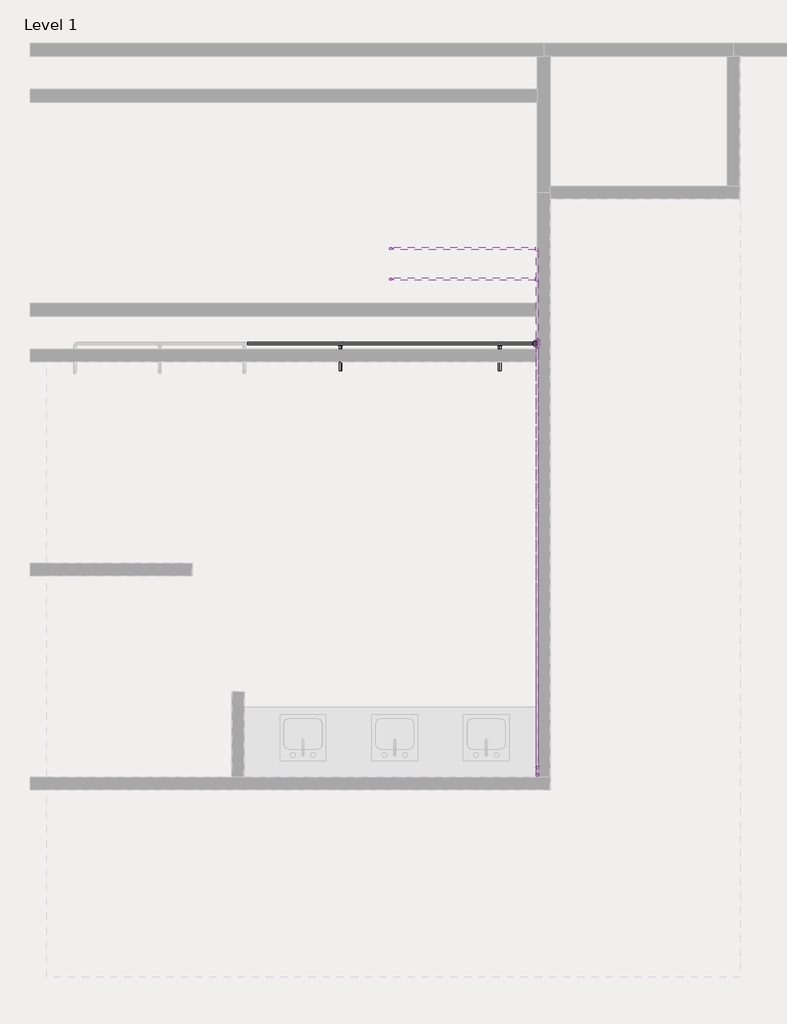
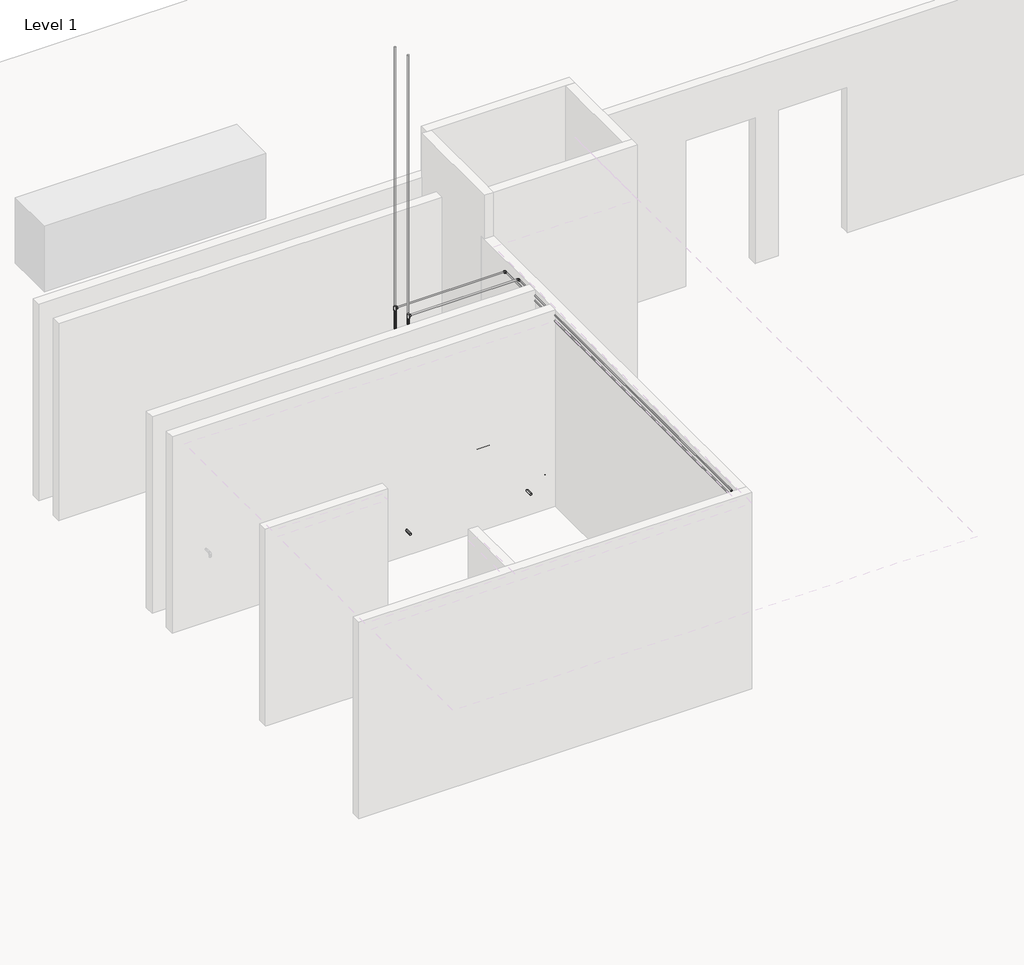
# One storey, part 4 of 4: 30 pipe fittings, 28 pipe segments.
"""IFC4 building model written with IfcOpenShell, lengths in millimetres."""

from ifc_helpers import new_model, si_unit, point, frame, frame_2d, origin, place, context, project, spatial, circle_curve, trimmed, segment, composite_curve, outline, extrude, transform, mapped, element, save
from components import pipe_elbow_standard_aad62f2d, pipe_elbow_standard_a25a5501, pipe_elbow_standard_feaaf02c, pipe_tee_standard_ee363fbf, pipe_tee_standard_7127fd44, pipe_transition_eccentric_standard_d2ed9d0f, pipe_transition_eccentric_standard_5a72ba1c, pipe_transition_eccentric_standard_c40806be, pipe_transition_eccentric_standard_151601c4

model = new_model("IFC4")

# Units and contexts
model_context = context("Model", 3, world=origin())
ifc_project = project(units=[si_unit("LENGTHUNIT", "METRE", prefix="MILLI")], contexts=[model_context])

# Site, building, storey
site = spatial("IfcSite", under=ifc_project)
building = spatial("IfcBuilding", under=site)
storey = spatial("IfcBuildingStorey", under=building, Name="Level 1", Elevation=0.0)

# Pipe fittings
placement = place(None, origin())
pipe_elbow_standard_shape = pipe_elbow_standard_aad62f2d(model_context)
element("IfcPipeFitting", 1, ObjectType="Pipe Elbow : Standard", at=placement, inside=storey, context=model_context, shape_type="MappedRepresentation", body=[
    mapped(pipe_elbow_standard_shape, transform((9090.0157496, 3793.5640359, 863.6), x_axis=(0.0, 0.0, -1.0), y_axis=(0.0, -1.0, 0.0), z_axis=(-1.0, 0.0, 0.0))),
])
element("IfcPipeFitting", 2, ObjectType="Pipe Elbow : Standard", at=placement, inside=storey, context=model_context, shape_type="MappedRepresentation", body=[
    mapped(pipe_elbow_standard_shape, transform((10004.4157496, 3793.5640359, 863.6), x_axis=(0.0, 0.0, -1.0), y_axis=(0.0, -1.0, 0.0), z_axis=(-1.0, 0.0, 0.0))),
])
element("IfcPipeFitting", 3, ObjectType="Pipe Elbow : Standard", at=placement, inside=storey, context=model_context, shape_type="MappedRepresentation", body=[
    mapped(pipe_elbow_standard_shape, transform((9801.2157496, 3793.5640359, 762.0), x_axis=(0.0, 0.0, -1.0), y_axis=(0.0, -1.0, 0.0), z_axis=(-1.0, 0.0, 0.0))),
])
element("IfcPipeFitting", 4, ObjectType="Pipe Elbow : Standard", at=placement, inside=storey, context=model_context, shape_type="MappedRepresentation", body=[
    mapped(pipe_elbow_standard_shape, transform((8886.8157496, 3793.5640359, 762.0), x_axis=(0.0, 0.0, -1.0), y_axis=(0.0, -1.0, 0.0), z_axis=(-1.0, 0.0, 0.0))),
])
pipe_elbow_standard_2_shape = pipe_elbow_standard_a25a5501(model_context)
element("IfcPipeFitting", 5, ObjectType="Pipe Elbow : Standard", at=placement, inside=storey, context=model_context, shape_type="MappedRepresentation", body=[
    mapped(pipe_elbow_standard_2_shape, transform((10036.227769, 7897.6573915, 355.6), x_axis=(-1.0, 0.0, 0.0), y_axis=(0.0, -1.0, 0.0), z_axis=(0.0, 0.0, 1.0))),
])
element("IfcPipeFitting", 6, ObjectType="Pipe Elbow : Standard", at=placement, inside=storey, context=model_context, shape_type="MappedRepresentation", body=[
    mapped(pipe_elbow_standard_2_shape, transform((10410.8157496, 7897.6573915, 355.6), x_axis=(0.0, 0.0, -1.0), y_axis=(-1.0, 0.0, 0.0), z_axis=(0.0, 1.0, 0.0))),
])
element("IfcPipeFitting", 7, ObjectType="Pipe Elbow : Standard", at=placement, inside=storey, context=model_context, shape_type="MappedRepresentation", body=[
    mapped(pipe_elbow_standard_2_shape, transform((8448.727769, 7897.6573915, 355.6), x_axis=(-1.0, 0.0, 0.0), y_axis=(0.0, -1.0, 0.0), z_axis=(0.0, 0.0, 1.0))),
])
pipe_elbow_standard_3_shape = pipe_elbow_standard_feaaf02c(model_context)
element("IfcPipeFitting", 8, ObjectType="Pipe Elbow : Standard", at=placement, inside=storey, context=model_context, shape_type="MappedRepresentation", body=[
    mapped(pipe_elbow_standard_3_shape, transform((10410.8157496, 3596.9672657, 863.6), x_axis=(1.0, 0.0, 0.0), y_axis=(0.0, 0.0, 1.0), z_axis=(0.0, -1.0, 0.0))),
])
element("IfcPipeFitting", 9, ObjectType="Pipe Elbow : Standard", at=placement, inside=storey, context=model_context, shape_type="MappedRepresentation", body=[
    mapped(pipe_elbow_standard_3_shape, transform((10410.8157496, 8844.4099268, 2590.8), x_axis=(0.0, 1.0, 0.0), y_axis=(-1.0, 0.0, 0.0), z_axis=(0.0, 0.0, 1.0))),
])
element("IfcPipeFitting", 10, ObjectType="Pipe Elbow : Standard", at=placement, inside=storey, context=model_context, shape_type="MappedRepresentation", body=[
    mapped(pipe_elbow_standard_3_shape, transform((10410.8157496, 3660.4672657, 762.0), x_axis=(1.0, 0.0, 0.0), y_axis=(0.0, 0.0, 1.0), z_axis=(0.0, -1.0, 0.0))),
])
element("IfcPipeFitting", 11, ObjectType="Pipe Elbow : Standard", at=placement, inside=storey, context=model_context, shape_type="MappedRepresentation", body=[
    mapped(pipe_elbow_standard_3_shape, transform((10410.8157496, 3590.3640359, 2590.8), x_axis=(0.0, -1.0, 0.0), y_axis=(0.0, 0.0, 1.0), z_axis=(-1.0, 0.0, 0.0))),
])
element("IfcPipeFitting", 12, ObjectType="Pipe Elbow : Standard", at=placement, inside=storey, context=model_context, shape_type="MappedRepresentation", body=[
    mapped(pipe_elbow_standard_3_shape, transform((10410.8157496, 8539.6099268, 2667.0), x_axis=(0.0, 1.0, 0.0), y_axis=(-1.0, 0.0, 0.0), z_axis=(0.0, 0.0, 1.0))),
])
element("IfcPipeFitting", 13, ObjectType="Pipe Elbow : Standard", at=placement, inside=storey, context=model_context, shape_type="MappedRepresentation", body=[
    mapped(pipe_elbow_standard_3_shape, transform((10410.8157496, 3660.4672657, 2667.0), x_axis=(0.0, 0.0, 1.0), y_axis=(0.0, 1.0, 0.0), z_axis=(-1.0, 0.0, 0.0))),
])
pipe_tee_standard_shape = pipe_tee_standard_ee363fbf(model_context)
element("IfcPipeFitting", 14, ObjectType="Pipe Tee : Standard", at=placement, inside=storey, context=model_context, shape_type="MappedRepresentation", body=[
    mapped(pipe_tee_standard_shape, transform((9090.0157496, 3596.9672657, 863.6), x_axis=(-1.0, 0.0, 0.0), y_axis=(0.0, -1.0, 0.0), z_axis=(0.0, 0.0, 1.0))),
])
element("IfcPipeFitting", 15, ObjectType="Pipe Tee : Standard", at=placement, inside=storey, context=model_context, shape_type="MappedRepresentation", body=[
    mapped(pipe_tee_standard_shape, transform((10004.4157496, 3596.9672657, 863.6), x_axis=(-1.0, 0.0, 0.0), y_axis=(0.0, -1.0, 0.0), z_axis=(0.0, 0.0, 1.0))),
])
element("IfcPipeFitting", 16, ObjectType="Pipe Tee : Standard", at=placement, inside=storey, context=model_context, shape_type="MappedRepresentation", body=[
    mapped(pipe_tee_standard_shape, transform((8950.3157496, 8844.4099268, 2590.8), x_axis=(0.0, 0.0, 1.0), y_axis=(-1.0, 0.0, 0.0), z_axis=(0.0, -1.0, 0.0))),
])
element("IfcPipeFitting", 17, ObjectType="Pipe Tee : Standard", at=placement, inside=storey, context=model_context, shape_type="MappedRepresentation", body=[
    mapped(pipe_tee_standard_shape, transform((8950.3157496, 8539.6099268, 2667.0), x_axis=(0.0, 0.0, -1.0), y_axis=(-1.0, 0.0, 0.0), z_axis=(0.0, 1.0, 0.0))),
])
element("IfcPipeFitting", 18, ObjectType="Pipe Tee : Standard", at=placement, inside=storey, context=model_context, shape_type="MappedRepresentation", body=[
    mapped(pipe_tee_standard_shape, transform((9801.2157496, 3660.4672657, 762.0), x_axis=(-1.0, 0.0, 0.0), y_axis=(0.0, -1.0, 0.0), z_axis=(0.0, 0.0, 1.0))),
])
element("IfcPipeFitting", 19, ObjectType="Pipe Tee : Standard", at=placement, inside=storey, context=model_context, shape_type="MappedRepresentation", body=[
    mapped(pipe_tee_standard_shape, transform((8886.8157496, 3660.4672657, 762.0), x_axis=(1.0, 0.0, 0.0), y_axis=(0.0, -1.0, 0.0), z_axis=(0.0, 0.0, -1.0))),
])
pipe_tee_standard_2_shape = pipe_tee_standard_7127fd44(model_context)
element("IfcPipeFitting", 20, ObjectType="Pipe Tee : Standard", at=placement, inside=storey, context=model_context, shape_type="MappedRepresentation", body=[
    mapped(pipe_tee_standard_2_shape, transform((10410.8157496, 7897.6573915, 2590.8), x_axis=(0.0, 1.0, 0.0), y_axis=(0.0, 0.0, 1.0), z_axis=(1.0, 0.0, 0.0))),
])
element("IfcPipeFitting", 21, ObjectType="Pipe Tee : Standard", at=placement, inside=storey, context=model_context, shape_type="MappedRepresentation", body=[
    mapped(pipe_tee_standard_2_shape, transform((10410.8157496, 7897.6573915, 1021.5562398), x_axis=(0.0, 0.0, 1.0), y_axis=(1.0, 0.0, 0.0), z_axis=(0.0, 1.0, 0.0))),
])
pipe_transition_eccentric_standard_shape = pipe_transition_eccentric_standard_d2ed9d0f(model_context)
element("IfcPipeFitting", 22, ObjectType="Pipe Transition Eccentric : Standard", at=placement, inside=storey, context=model_context, shape_type="MappedRepresentation", body=[
    mapped(pipe_transition_eccentric_standard_shape, transform((10410.8157496, 7861.1448915, 2590.8), x_axis=(0.0, -1.0, 0.0), y_axis=(1.0, 0.0, 0.0), z_axis=(0.0, 0.0, 1.0))),
])
pipe_transition_eccentric_standard_2_shape = pipe_transition_eccentric_standard_5a72ba1c(model_context)
element("IfcPipeFitting", 23, ObjectType="Pipe Transition Eccentric : Standard", at=placement, inside=storey, context=model_context, shape_type="MappedRepresentation", body=[
    mapped(pipe_transition_eccentric_standard_2_shape, transform((10410.8157496, 7897.6573915, 389.73125), x_axis=(0.0, 0.0, -1.0), y_axis=(0.0, -1.0, 0.0), z_axis=(-1.0, 0.0, 0.0))),
])
pipe_transition_eccentric_standard_3_shape = pipe_transition_eccentric_standard_c40806be(model_context)
element("IfcPipeFitting", 24, ObjectType="Pipe Transition Eccentric : Standard", at=placement, inside=storey, context=model_context, shape_type="MappedRepresentation", body=[
    mapped(pipe_transition_eccentric_standard_3_shape, transform((9090.0157496, 3623.9547657, 863.6), x_axis=(0.0, 1.0, 0.0), y_axis=(-1.0, 0.0, 0.0), z_axis=(0.0, 0.0, 1.0))),
])
element("IfcPipeFitting", 25, ObjectType="Pipe Transition Eccentric : Standard", at=placement, inside=storey, context=model_context, shape_type="MappedRepresentation", body=[
    mapped(pipe_transition_eccentric_standard_3_shape, transform((10004.4157496, 3623.9547657, 863.6), x_axis=(0.0, 1.0, 0.0), y_axis=(-1.0, 0.0, 0.0), z_axis=(0.0, 0.0, 1.0))),
])
element("IfcPipeFitting", 26, ObjectType="Pipe Transition Eccentric : Standard", at=placement, inside=storey, context=model_context, shape_type="MappedRepresentation", body=[
    mapped(pipe_transition_eccentric_standard_3_shape, transform((9801.2157496, 3687.4547657, 762.0), x_axis=(0.0, 1.0, 0.0), y_axis=(-1.0, 0.0, 0.0), z_axis=(0.0, 0.0, 1.0))),
])
element("IfcPipeFitting", 27, ObjectType="Pipe Transition Eccentric : Standard", at=placement, inside=storey, context=model_context, shape_type="MappedRepresentation", body=[
    mapped(pipe_transition_eccentric_standard_3_shape, transform((8886.8157496, 3687.4547657, 762.0), x_axis=(0.0, 1.0, 0.0), y_axis=(-1.0, 0.0, 0.0), z_axis=(0.0, 0.0, 1.0))),
])
element("IfcPipeFitting", 28, ObjectType="Pipe Transition Eccentric : Standard", at=placement, inside=storey, context=model_context, shape_type="MappedRepresentation", body=[
    mapped(pipe_transition_eccentric_standard_3_shape, transform((10410.8157496, 3590.3640359, 2611.4375), x_axis=(0.0, 0.0, 1.0), y_axis=(0.0, -1.0, 0.0), z_axis=(1.0, 0.0, 0.0))),
])
pipe_transition_eccentric_standard_4_shape = pipe_transition_eccentric_standard_151601c4(model_context)
element("IfcPipeFitting", 29, ObjectType="Pipe Transition Eccentric : Standard", at=placement, inside=storey, context=model_context, shape_type="MappedRepresentation", body=[
    mapped(pipe_transition_eccentric_standard_4_shape, transform((10410.8157496, 7934.1698915, 2590.8), x_axis=(0.0, 1.0, 0.0), y_axis=(-1.0, 0.0, 0.0), z_axis=(0.0, 0.0, 1.0))),
])
element("IfcPipeFitting", 30, ObjectType="Pipe Transition Eccentric : Standard", at=placement, inside=storey, context=model_context, shape_type="MappedRepresentation", body=[
    mapped(pipe_transition_eccentric_standard_4_shape, transform((10374.3032496, 7897.6573915, 1021.5562398), x_axis=(-1.0, 0.0, 0.0), y_axis=(0.0, -1.0, 0.0), z_axis=(0.0, 0.0, 1.0))),
])

# Pipe segments
element("IfcPipeSegment", 31, ObjectType="Hot Water", at=placement, inside=storey, context=model_context, shape_type="SweptSolid", body=[
    extrude(outline(composite_curve([segment(trimmed(circle_curve(frame_2d((9090.0157496, 3793.5640359)), 7.9375), [point((9097.9532496, 3793.5640359))], [point((9090.0157496, 3785.6265359))], False, "CARTESIAN"), True, "CONTINUOUS"), segment(trimmed(circle_curve(frame_2d((9090.0157496, 3793.5640359)), 7.9375), [point((9090.0157496, 3785.6265359))], [point((9082.0782496, 3793.5640359))], False, "CARTESIAN"), True, "CONTINUOUS"), segment(trimmed(circle_curve(frame_2d((9090.0157496, 3793.5640359)), 7.9375), [point((9082.0782496, 3793.5640359))], [point((9090.0157496, 3801.5015359))], False, "CARTESIAN"), True, "CONTINUOUS"), segment(trimmed(circle_curve(frame_2d((9090.0157496, 3793.5640359)), 7.9375), [point((9090.0157496, 3801.5015359))], [point((9097.9532496, 3793.5640359))], False, "CARTESIAN"), True, "CONTINUOUS")], self_intersect=False)), frame((0.0, 0.0, 881.0625), z_axis=(0.0, 0.0, 1.0), x_axis=(1.0, 0.0, 0.0)), (0.0, 0.0, 1.0), 33.3375),
])
element("IfcPipeSegment", 32, ObjectType="Hot Water", at=placement, inside=storey, context=model_context, shape_type="SweptSolid", body=[
    extrude(outline(composite_curve([segment(trimmed(circle_curve(frame_2d((863.6, 9090.0157496)), 7.9375), [point((863.6, 9082.0782496))], [point((855.6625, 9090.0157496))], False, "CARTESIAN"), True, "CONTINUOUS"), segment(trimmed(circle_curve(frame_2d((863.6, 9090.0157496)), 7.9375), [point((855.6625, 9090.0157496))], [point((863.6, 9097.9532496))], False, "CARTESIAN"), True, "CONTINUOUS"), segment(trimmed(circle_curve(frame_2d((863.6, 9090.0157496)), 7.9375), [point((863.6, 9097.9532496))], [point((871.5375, 9090.0157496))], False, "CARTESIAN"), True, "CONTINUOUS"), segment(trimmed(circle_curve(frame_2d((863.6, 9090.0157496)), 7.9375), [point((871.5375, 9090.0157496))], [point((863.6, 9082.0782496))], False, "CARTESIAN"), True, "CONTINUOUS")], self_intersect=False)), frame((0.0, 3629.5110157, 0.0), z_axis=(0.0, 1.0, 0.0), x_axis=(0.0, 0.0, 1.0)), (0.0, 0.0, 1.0), 146.5905202),
])
element("IfcPipeSegment", 33, ObjectType="Hot Water", at=placement, inside=storey, context=model_context, shape_type="SweptSolid", body=[
    extrude(outline(composite_curve([segment(trimmed(circle_curve(frame_2d((10004.4157496, 3793.5640359)), 7.9375), [point((10012.3532496, 3793.5640359))], [point((10004.4157496, 3785.6265359))], False, "CARTESIAN"), True, "CONTINUOUS"), segment(trimmed(circle_curve(frame_2d((10004.4157496, 3793.5640359)), 7.9375), [point((10004.4157496, 3785.6265359))], [point((9996.4782496, 3793.5640359))], False, "CARTESIAN"), True, "CONTINUOUS"), segment(trimmed(circle_curve(frame_2d((10004.4157496, 3793.5640359)), 7.9375), [point((9996.4782496, 3793.5640359))], [point((10004.4157496, 3801.5015359))], False, "CARTESIAN"), True, "CONTINUOUS"), segment(trimmed(circle_curve(frame_2d((10004.4157496, 3793.5640359)), 7.9375), [point((10004.4157496, 3801.5015359))], [point((10012.3532496, 3793.5640359))], False, "CARTESIAN"), True, "CONTINUOUS")], self_intersect=False)), frame((0.0, 0.0, 881.0625), z_axis=(0.0, 0.0, 1.0), x_axis=(1.0, 0.0, 0.0)), (0.0, 0.0, 1.0), 33.3375),
])
element("IfcPipeSegment", 34, ObjectType="Hot Water", at=placement, inside=storey, context=model_context, shape_type="SweptSolid", body=[
    extrude(outline(composite_curve([segment(trimmed(circle_curve(frame_2d((863.6, 10004.4157496)), 7.9375), [point((863.6, 9996.4782496))], [point((855.6625, 10004.4157496))], False, "CARTESIAN"), True, "CONTINUOUS"), segment(trimmed(circle_curve(frame_2d((863.6, 10004.4157496)), 7.9375), [point((855.6625, 10004.4157496))], [point((863.6, 10012.3532496))], False, "CARTESIAN"), True, "CONTINUOUS"), segment(trimmed(circle_curve(frame_2d((863.6, 10004.4157496)), 7.9375), [point((863.6, 10012.3532496))], [point((871.5375, 10004.4157496))], False, "CARTESIAN"), True, "CONTINUOUS"), segment(trimmed(circle_curve(frame_2d((863.6, 10004.4157496)), 7.9375), [point((871.5375, 10004.4157496))], [point((863.6, 9996.4782496))], False, "CARTESIAN"), True, "CONTINUOUS")], self_intersect=False)), frame((0.0, 3629.5110157, 0.0), z_axis=(0.0, 1.0, 0.0), x_axis=(0.0, 0.0, 1.0)), (0.0, 0.0, 1.0), 146.5905202),
])
element("IfcPipeSegment", 35, ObjectType="Hot Water", at=placement, inside=storey, context=model_context, shape_type="SweptSolid", body=[
    extrude(outline(composite_curve([segment(trimmed(circle_curve(frame_2d((3596.9672657, 863.6)), 11.1125), [point((3585.8547657, 863.6))], [point((3596.9672657, 874.7125))], False, "CARTESIAN"), True, "CONTINUOUS"), segment(trimmed(circle_curve(frame_2d((3596.9672657, 863.6)), 11.1125), [point((3596.9672657, 874.7125))], [point((3608.0797657, 863.6))], False, "CARTESIAN"), True, "CONTINUOUS"), segment(trimmed(circle_curve(frame_2d((3596.9672657, 863.6)), 11.1125), [point((3608.0797657, 863.6))], [point((3596.9672657, 852.4875))], False, "CARTESIAN"), True, "CONTINUOUS"), segment(trimmed(circle_curve(frame_2d((3596.9672657, 863.6)), 11.1125), [point((3596.9672657, 852.4875))], [point((3585.8547657, 863.6))], False, "CARTESIAN"), True, "CONTINUOUS")], self_intersect=False)), frame((10031.4032496, 0.0, 0.0), z_axis=(1.0, 0.0, 0.0), x_axis=(0.0, 1.0, 0.0)), (0.0, 0.0, 1.0), 358.775),
])
element("IfcPipeSegment", 36, ObjectType="Hot Water", at=placement, inside=storey, context=model_context, shape_type="SweptSolid", body=[
    extrude(outline(composite_curve([segment(trimmed(circle_curve(frame_2d((3596.9672657, 863.6)), 11.1125), [point((3585.8547657, 863.6))], [point((3596.9672657, 874.7125))], False, "CARTESIAN"), True, "CONTINUOUS"), segment(trimmed(circle_curve(frame_2d((3596.9672657, 863.6)), 11.1125), [point((3596.9672657, 874.7125))], [point((3608.0797657, 863.6))], False, "CARTESIAN"), True, "CONTINUOUS"), segment(trimmed(circle_curve(frame_2d((3596.9672657, 863.6)), 11.1125), [point((3608.0797657, 863.6))], [point((3596.9672657, 852.4875))], False, "CARTESIAN"), True, "CONTINUOUS"), segment(trimmed(circle_curve(frame_2d((3596.9672657, 863.6)), 11.1125), [point((3596.9672657, 852.4875))], [point((3585.8547657, 863.6))], False, "CARTESIAN"), True, "CONTINUOUS")], self_intersect=False)), frame((9117.0032496, 0.0, 0.0), z_axis=(1.0, 0.0, 0.0), x_axis=(0.0, 1.0, 0.0)), (0.0, 0.0, 1.0), 860.425),
])
element("IfcPipeSegment", 37, ObjectType="Hot Water", at=placement, inside=storey, context=model_context, shape_type="SweptSolid", body=[
    extrude(outline(composite_curve([segment(trimmed(circle_curve(frame_2d((8950.3157496, 8539.6099268)), 11.1125), [point((8961.4282496, 8539.6099268))], [point((8950.3157496, 8528.4974268))], False, "CARTESIAN"), True, "CONTINUOUS"), segment(trimmed(circle_curve(frame_2d((8950.3157496, 8539.6099268)), 11.1125), [point((8950.3157496, 8528.4974268))], [point((8939.2032496, 8539.6099268))], False, "CARTESIAN"), True, "CONTINUOUS"), segment(trimmed(circle_curve(frame_2d((8950.3157496, 8539.6099268)), 11.1125), [point((8939.2032496, 8539.6099268))], [point((8950.3157496, 8550.7224268))], False, "CARTESIAN"), True, "CONTINUOUS"), segment(trimmed(circle_curve(frame_2d((8950.3157496, 8539.6099268)), 11.1125), [point((8950.3157496, 8550.7224268))], [point((8961.4282496, 8539.6099268))], False, "CARTESIAN"), True, "CONTINUOUS")], self_intersect=False)), frame((0.0, 0.0, 1447.8), z_axis=(0.0, 0.0, 1.0), x_axis=(1.0, 0.0, 0.0)), (0.0, 0.0, 1.0), 1192.2125),
])
element("IfcPipeSegment", 38, ObjectType="Hot Water", at=placement, inside=storey, context=model_context, shape_type="SweptSolid", body=[
    extrude(outline(composite_curve([segment(trimmed(circle_curve(frame_2d((8950.3157496, 8844.4099268)), 11.1125), [point((8961.4282496, 8844.4099268))], [point((8950.3157496, 8833.2974268))], False, "CARTESIAN"), True, "CONTINUOUS"), segment(trimmed(circle_curve(frame_2d((8950.3157496, 8844.4099268)), 11.1125), [point((8950.3157496, 8833.2974268))], [point((8939.2032496, 8844.4099268))], False, "CARTESIAN"), True, "CONTINUOUS"), segment(trimmed(circle_curve(frame_2d((8950.3157496, 8844.4099268)), 11.1125), [point((8939.2032496, 8844.4099268))], [point((8950.3157496, 8855.5224268))], False, "CARTESIAN"), True, "CONTINUOUS"), segment(trimmed(circle_curve(frame_2d((8950.3157496, 8844.4099268)), 11.1125), [point((8950.3157496, 8855.5224268))], [point((8961.4282496, 8844.4099268))], False, "CARTESIAN"), True, "CONTINUOUS")], self_intersect=False)), frame((0.0, 0.0, 1447.8), z_axis=(0.0, 0.0, 1.0), x_axis=(1.0, 0.0, 0.0)), (0.0, 0.0, 1.0), 1116.0125),
])
element("IfcPipeSegment", 39, ObjectType="Hot Water", at=placement, inside=storey, context=model_context, shape_type="SweptSolid", body=[
    extrude(outline(composite_curve([segment(trimmed(circle_curve(frame_2d((8844.4099268, 2590.8)), 11.1125), [point((8833.2974268, 2590.8))], [point((8844.4099268, 2601.9125))], False, "CARTESIAN"), True, "CONTINUOUS"), segment(trimmed(circle_curve(frame_2d((8844.4099268, 2590.8)), 11.1125), [point((8844.4099268, 2601.9125))], [point((8855.5224268, 2590.8))], False, "CARTESIAN"), True, "CONTINUOUS"), segment(trimmed(circle_curve(frame_2d((8844.4099268, 2590.8)), 11.1125), [point((8855.5224268, 2590.8))], [point((8844.4099268, 2579.6875))], False, "CARTESIAN"), True, "CONTINUOUS"), segment(trimmed(circle_curve(frame_2d((8844.4099268, 2590.8)), 11.1125), [point((8844.4099268, 2579.6875))], [point((8833.2974268, 2590.8))], False, "CARTESIAN"), True, "CONTINUOUS")], self_intersect=False)), frame((8977.3032496, 0.0, 0.0), z_axis=(1.0, 0.0, 0.0), x_axis=(0.0, 1.0, 0.0)), (0.0, 0.0, 1.0), 1412.875),
])
element("IfcPipeSegment", 40, ObjectType="Hot Water", at=placement, inside=storey, context=model_context, shape_type="SweptSolid", body=[
    extrude(outline(composite_curve([segment(trimmed(circle_curve(frame_2d((8950.3157496, 8844.4099268)), 11.1125), [point((8961.4282496, 8844.4099268))], [point((8950.3157496, 8833.2974268))], False, "CARTESIAN"), True, "CONTINUOUS"), segment(trimmed(circle_curve(frame_2d((8950.3157496, 8844.4099268)), 11.1125), [point((8950.3157496, 8833.2974268))], [point((8939.2032496, 8844.4099268))], False, "CARTESIAN"), True, "CONTINUOUS"), segment(trimmed(circle_curve(frame_2d((8950.3157496, 8844.4099268)), 11.1125), [point((8939.2032496, 8844.4099268))], [point((8950.3157496, 8855.5224268))], False, "CARTESIAN"), True, "CONTINUOUS"), segment(trimmed(circle_curve(frame_2d((8950.3157496, 8844.4099268)), 11.1125), [point((8950.3157496, 8855.5224268))], [point((8961.4282496, 8844.4099268))], False, "CARTESIAN"), True, "CONTINUOUS")], self_intersect=False)), frame((0.0, 0.0, 2617.7875), z_axis=(0.0, 0.0, 1.0), x_axis=(1.0, 0.0, 0.0)), (0.0, 0.0, 1.0), 3609.975),
])
element("IfcPipeSegment", 41, ObjectType="Hot Water", at=placement, inside=storey, context=model_context, shape_type="SweptSolid", body=[
    extrude(outline(composite_curve([segment(trimmed(circle_curve(frame_2d((2667.0, 10410.8157496)), 11.1125), [point((2667.0, 10399.7032496))], [point((2655.8875, 10410.8157496))], False, "CARTESIAN"), True, "CONTINUOUS"), segment(trimmed(circle_curve(frame_2d((2667.0, 10410.8157496)), 11.1125), [point((2655.8875, 10410.8157496))], [point((2667.0, 10421.9282496))], False, "CARTESIAN"), True, "CONTINUOUS"), segment(trimmed(circle_curve(frame_2d((2667.0, 10410.8157496)), 11.1125), [point((2667.0, 10421.9282496))], [point((2678.1125, 10410.8157496))], False, "CARTESIAN"), True, "CONTINUOUS"), segment(trimmed(circle_curve(frame_2d((2667.0, 10410.8157496)), 11.1125), [point((2678.1125, 10410.8157496))], [point((2667.0, 10399.7032496))], False, "CARTESIAN"), True, "CONTINUOUS")], self_intersect=False)), frame((0.0, 3681.1047657, 0.0), z_axis=(0.0, 1.0, 0.0), x_axis=(0.0, 0.0, 1.0)), (0.0, 0.0, 1.0), 4837.8676611),
])
element("IfcPipeSegment", 42, ObjectType="Hot Water", at=placement, inside=storey, context=model_context, shape_type="SweptSolid", body=[
    extrude(outline(composite_curve([segment(trimmed(circle_curve(frame_2d((8539.6099268, 2667.0)), 11.1125), [point((8528.4974268, 2667.0))], [point((8539.6099268, 2678.1125))], False, "CARTESIAN"), True, "CONTINUOUS"), segment(trimmed(circle_curve(frame_2d((8539.6099268, 2667.0)), 11.1125), [point((8539.6099268, 2678.1125))], [point((8550.7224268, 2667.0))], False, "CARTESIAN"), True, "CONTINUOUS"), segment(trimmed(circle_curve(frame_2d((8539.6099268, 2667.0)), 11.1125), [point((8550.7224268, 2667.0))], [point((8539.6099268, 2655.8875))], False, "CARTESIAN"), True, "CONTINUOUS"), segment(trimmed(circle_curve(frame_2d((8539.6099268, 2667.0)), 11.1125), [point((8539.6099268, 2655.8875))], [point((8528.4974268, 2667.0))], False, "CARTESIAN"), True, "CONTINUOUS")], self_intersect=False)), frame((8977.3032496, 0.0, 0.0), z_axis=(1.0, 0.0, 0.0), x_axis=(0.0, 1.0, 0.0)), (0.0, 0.0, 1.0), 1412.875),
])
element("IfcPipeSegment", 43, ObjectType="Hot Water", at=placement, inside=storey, context=model_context, shape_type="SweptSolid", body=[
    extrude(outline(composite_curve([segment(trimmed(circle_curve(frame_2d((8950.3157496, 8539.6099268)), 11.1125), [point((8961.4282496, 8539.6099268))], [point((8950.3157496, 8528.4974268))], False, "CARTESIAN"), True, "CONTINUOUS"), segment(trimmed(circle_curve(frame_2d((8950.3157496, 8539.6099268)), 11.1125), [point((8950.3157496, 8528.4974268))], [point((8939.2032496, 8539.6099268))], False, "CARTESIAN"), True, "CONTINUOUS"), segment(trimmed(circle_curve(frame_2d((8950.3157496, 8539.6099268)), 11.1125), [point((8939.2032496, 8539.6099268))], [point((8950.3157496, 8550.7224268))], False, "CARTESIAN"), True, "CONTINUOUS"), segment(trimmed(circle_curve(frame_2d((8950.3157496, 8539.6099268)), 11.1125), [point((8950.3157496, 8550.7224268))], [point((8961.4282496, 8539.6099268))], False, "CARTESIAN"), True, "CONTINUOUS")], self_intersect=False)), frame((0.0, 0.0, 2693.9875), z_axis=(0.0, 0.0, 1.0), x_axis=(1.0, 0.0, 0.0)), (0.0, 0.0, 1.0), 3609.975),
])
element("IfcPipeSegment", 44, ObjectType="Hot Water", at=placement, inside=storey, context=model_context, shape_type="SweptSolid", body=[
    extrude(outline(composite_curve([segment(trimmed(circle_curve(frame_2d((2590.8, 10410.8157496)), 11.1125), [point((2590.8, 10399.7032496))], [point((2579.6875, 10410.8157496))], False, "CARTESIAN"), True, "CONTINUOUS"), segment(trimmed(circle_curve(frame_2d((2590.8, 10410.8157496)), 11.1125), [point((2579.6875, 10410.8157496))], [point((2590.8, 10421.9282496))], False, "CARTESIAN"), True, "CONTINUOUS"), segment(trimmed(circle_curve(frame_2d((2590.8, 10410.8157496)), 11.1125), [point((2590.8, 10421.9282496))], [point((2601.9125, 10410.8157496))], False, "CARTESIAN"), True, "CONTINUOUS"), segment(trimmed(circle_curve(frame_2d((2590.8, 10410.8157496)), 11.1125), [point((2601.9125, 10410.8157496))], [point((2590.8, 10399.7032496))], False, "CARTESIAN"), True, "CONTINUOUS")], self_intersect=False)), frame((0.0, 3611.0015359, 0.0), z_axis=(0.0, 1.0, 0.0), x_axis=(0.0, 0.0, 1.0)), (0.0, 0.0, 1.0), 4239.8246056),
])
element("IfcPipeSegment", 45, ObjectType="Hot Water", at=placement, inside=storey, context=model_context, shape_type="SweptSolid", body=[
    extrude(outline(composite_curve([segment(trimmed(circle_curve(frame_2d((2590.8, 10410.8157496)), 11.1125), [point((2590.8, 10399.7032496))], [point((2579.6875, 10410.8157496))], False, "CARTESIAN"), True, "CONTINUOUS"), segment(trimmed(circle_curve(frame_2d((2590.8, 10410.8157496)), 11.1125), [point((2579.6875, 10410.8157496))], [point((2590.8, 10421.9282496))], False, "CARTESIAN"), True, "CONTINUOUS"), segment(trimmed(circle_curve(frame_2d((2590.8, 10410.8157496)), 11.1125), [point((2590.8, 10421.9282496))], [point((2601.9125, 10410.8157496))], False, "CARTESIAN"), True, "CONTINUOUS"), segment(trimmed(circle_curve(frame_2d((2590.8, 10410.8157496)), 11.1125), [point((2601.9125, 10410.8157496))], [point((2590.8, 10399.7032496))], False, "CARTESIAN"), True, "CONTINUOUS")], self_intersect=False)), frame((0.0, 7944.4886415, 0.0), z_axis=(0.0, 1.0, 0.0), x_axis=(0.0, 0.0, 1.0)), (0.0, 0.0, 1.0), 879.2837853),
])
element("IfcPipeSegment", 46, ObjectType="Hot Water", at=placement, inside=storey, context=model_context, shape_type="SweptSolid", body=[
    extrude(outline(composite_curve([segment(trimmed(circle_curve(frame_2d((7897.6573915, 1021.5562398)), 11.1125), [point((7908.7698915, 1021.5562398))], [point((7897.6573915, 1010.4437398))], False, "CARTESIAN"), True, "CONTINUOUS"), segment(trimmed(circle_curve(frame_2d((7897.6573915, 1021.5562398)), 11.1125), [point((7897.6573915, 1010.4437398))], [point((7886.5448915, 1021.5562398))], False, "CARTESIAN"), True, "CONTINUOUS"), segment(trimmed(circle_curve(frame_2d((7897.6573915, 1021.5562398)), 11.1125), [point((7886.5448915, 1021.5562398))], [point((7897.6573915, 1032.6687398))], False, "CARTESIAN"), True, "CONTINUOUS"), segment(trimmed(circle_curve(frame_2d((7897.6573915, 1021.5562398)), 11.1125), [point((7897.6573915, 1032.6687398))], [point((7908.7698915, 1021.5562398))], False, "CARTESIAN"), True, "CONTINUOUS")], self_intersect=False)), frame((7516.8032496, 0.0, 0.0), z_axis=(1.0, 0.0, 0.0), x_axis=(0.0, 1.0, 0.0)), (0.0, 0.0, 1.0), 2847.18125),
])
element("IfcPipeSegment", 47, ObjectType="Hot Water", at=placement, inside=storey, context=model_context, shape_type="SweptSolid", body=[
    extrude(outline(composite_curve([segment(trimmed(circle_curve(frame_2d((10410.8157496, 7897.6573915)), 20.6375), [point((10431.4532496, 7897.6573915))], [point((10410.8157496, 7877.0198915))], False, "CARTESIAN"), True, "CONTINUOUS"), segment(trimmed(circle_curve(frame_2d((10410.8157496, 7897.6573915)), 20.6375), [point((10410.8157496, 7877.0198915))], [point((10390.1782496, 7897.6573915))], False, "CARTESIAN"), True, "CONTINUOUS"), segment(trimmed(circle_curve(frame_2d((10410.8157496, 7897.6573915)), 20.6375), [point((10390.1782496, 7897.6573915))], [point((10410.8157496, 7918.2948915))], False, "CARTESIAN"), True, "CONTINUOUS"), segment(trimmed(circle_curve(frame_2d((10410.8157496, 7897.6573915)), 20.6375), [point((10410.8157496, 7918.2948915))], [point((10431.4532496, 7897.6573915))], False, "CARTESIAN"), True, "CONTINUOUS")], self_intersect=False)), frame((0.0, 0.0, 1058.0687398), z_axis=(0.0, 0.0, 1.0), x_axis=(1.0, 0.0, 0.0)), (0.0, 0.0, 1.0), 1496.2187602),
])
element("IfcPipeSegment", 48, ObjectType="Hot Water", at=placement, inside=storey, context=model_context, shape_type="SweptSolid", body=[
    extrude(outline(composite_curve([segment(trimmed(circle_curve(frame_2d((355.6, 10036.227769)), 14.2875), [point((355.6, 10050.515269))], [point((369.8875, 10036.227769))], False, "CARTESIAN"), True, "CONTINUOUS"), segment(trimmed(circle_curve(frame_2d((355.6, 10036.227769)), 14.2875), [point((369.8875, 10036.227769))], [point((355.6, 10021.940269))], False, "CARTESIAN"), True, "CONTINUOUS"), segment(trimmed(circle_curve(frame_2d((355.6, 10036.227769)), 14.2875), [point((355.6, 10021.940269))], [point((341.3125, 10036.227769))], False, "CARTESIAN"), True, "CONTINUOUS"), segment(trimmed(circle_curve(frame_2d((355.6, 10036.227769)), 14.2875), [point((341.3125, 10036.227769))], [point((355.6, 10050.515269))], False, "CARTESIAN"), True, "CONTINUOUS")], self_intersect=False)), frame((0.0, 7625.2099268, 0.0), z_axis=(0.0, 1.0, 0.0), x_axis=(0.0, 0.0, 1.0)), (0.0, 0.0, 1.0), 248.6349647),
])
element("IfcPipeSegment", 49, ObjectType="Hot Water", at=placement, inside=storey, context=model_context, shape_type="SweptSolid", body=[
    extrude(outline(composite_curve([segment(trimmed(circle_curve(frame_2d((10410.8157496, 7897.6573915)), 20.6375), [point((10431.4532496, 7897.6573915))], [point((10410.8157496, 7877.0198915))], False, "CARTESIAN"), True, "CONTINUOUS"), segment(trimmed(circle_curve(frame_2d((10410.8157496, 7897.6573915)), 20.6375), [point((10410.8157496, 7877.0198915))], [point((10390.1782496, 7897.6573915))], False, "CARTESIAN"), True, "CONTINUOUS"), segment(trimmed(circle_curve(frame_2d((10410.8157496, 7897.6573915)), 20.6375), [point((10390.1782496, 7897.6573915))], [point((10410.8157496, 7918.2948915))], False, "CARTESIAN"), True, "CONTINUOUS"), segment(trimmed(circle_curve(frame_2d((10410.8157496, 7897.6573915)), 20.6375), [point((10410.8157496, 7918.2948915))], [point((10431.4532496, 7897.6573915))], False, "CARTESIAN"), True, "CONTINUOUS")], self_intersect=False)), frame((0.0, 0.0, 389.73125), z_axis=(0.0, 0.0, 1.0), x_axis=(1.0, 0.0, 0.0)), (0.0, 0.0, 1.0), 595.3124898),
])
element("IfcPipeSegment", 50, ObjectType="Hot Water", at=placement, inside=storey, context=model_context, shape_type="SweptSolid", body=[
    extrude(outline(composite_curve([segment(trimmed(circle_curve(frame_2d((355.6, 8448.727769)), 14.2875), [point((355.6, 8463.015269))], [point((369.8875, 8448.727769))], False, "CARTESIAN"), True, "CONTINUOUS"), segment(trimmed(circle_curve(frame_2d((355.6, 8448.727769)), 14.2875), [point((369.8875, 8448.727769))], [point((355.6, 8434.440269))], False, "CARTESIAN"), True, "CONTINUOUS"), segment(trimmed(circle_curve(frame_2d((355.6, 8448.727769)), 14.2875), [point((355.6, 8434.440269))], [point((341.3125, 8448.727769))], False, "CARTESIAN"), True, "CONTINUOUS"), segment(trimmed(circle_curve(frame_2d((355.6, 8448.727769)), 14.2875), [point((341.3125, 8448.727769))], [point((355.6, 8463.015269))], False, "CARTESIAN"), True, "CONTINUOUS")], self_intersect=False)), frame((0.0, 7625.2099268, 0.0), z_axis=(0.0, 1.0, 0.0), x_axis=(0.0, 0.0, 1.0)), (0.0, 0.0, 1.0), 248.6349647),
])
element("IfcPipeSegment", 51, ObjectType="Hot Water", at=placement, inside=storey, context=model_context, shape_type="SweptSolid", body=[
    extrude(outline(composite_curve([segment(trimmed(circle_curve(frame_2d((7897.6573915, 355.6)), 14.2875), [point((7911.9448915, 355.6))], [point((7897.6573915, 341.3125))], False, "CARTESIAN"), True, "CONTINUOUS"), segment(trimmed(circle_curve(frame_2d((7897.6573915, 355.6)), 14.2875), [point((7897.6573915, 341.3125))], [point((7883.3698915, 355.6))], False, "CARTESIAN"), True, "CONTINUOUS"), segment(trimmed(circle_curve(frame_2d((7897.6573915, 355.6)), 14.2875), [point((7883.3698915, 355.6))], [point((7897.6573915, 369.8875))], False, "CARTESIAN"), True, "CONTINUOUS"), segment(trimmed(circle_curve(frame_2d((7897.6573915, 355.6)), 14.2875), [point((7897.6573915, 369.8875))], [point((7911.9448915, 355.6))], False, "CARTESIAN"), True, "CONTINUOUS")], self_intersect=False)), frame((8472.540269, 0.0, 0.0), z_axis=(1.0, 0.0, 0.0), x_axis=(0.0, 1.0, 0.0)), (0.0, 0.0, 1.0), 1914.4629807),
])
element("IfcPipeSegment", 52, ObjectType="Hot Water", at=placement, inside=storey, context=model_context, shape_type="SweptSolid", body=[
    extrude(outline(composite_curve([segment(trimmed(circle_curve(frame_2d((9801.2157496, 3793.5640359)), 7.9375), [point((9809.1532496, 3793.5640359))], [point((9801.2157496, 3785.6265359))], False, "CARTESIAN"), True, "CONTINUOUS"), segment(trimmed(circle_curve(frame_2d((9801.2157496, 3793.5640359)), 7.9375), [point((9801.2157496, 3785.6265359))], [point((9793.2782496, 3793.5640359))], False, "CARTESIAN"), True, "CONTINUOUS"), segment(trimmed(circle_curve(frame_2d((9801.2157496, 3793.5640359)), 7.9375), [point((9793.2782496, 3793.5640359))], [point((9801.2157496, 3801.5015359))], False, "CARTESIAN"), True, "CONTINUOUS"), segment(trimmed(circle_curve(frame_2d((9801.2157496, 3793.5640359)), 7.9375), [point((9801.2157496, 3801.5015359))], [point((9809.1532496, 3793.5640359))], False, "CARTESIAN"), True, "CONTINUOUS")], self_intersect=False)), frame((0.0, 0.0, 779.4625), z_axis=(0.0, 0.0, 1.0), x_axis=(1.0, 0.0, 0.0)), (0.0, 0.0, 1.0), 134.9375),
])
element("IfcPipeSegment", 53, ObjectType="Hot Water", at=placement, inside=storey, context=model_context, shape_type="SweptSolid", body=[
    extrude(outline(composite_curve([segment(trimmed(circle_curve(frame_2d((762.0, 9801.2157496)), 7.9375), [point((762.0, 9793.2782496))], [point((754.0625, 9801.2157496))], False, "CARTESIAN"), True, "CONTINUOUS"), segment(trimmed(circle_curve(frame_2d((762.0, 9801.2157496)), 7.9375), [point((754.0625, 9801.2157496))], [point((762.0, 9809.1532496))], False, "CARTESIAN"), True, "CONTINUOUS"), segment(trimmed(circle_curve(frame_2d((762.0, 9801.2157496)), 7.9375), [point((762.0, 9809.1532496))], [point((769.9375, 9801.2157496))], False, "CARTESIAN"), True, "CONTINUOUS"), segment(trimmed(circle_curve(frame_2d((762.0, 9801.2157496)), 7.9375), [point((769.9375, 9801.2157496))], [point((762.0, 9793.2782496))], False, "CARTESIAN"), True, "CONTINUOUS")], self_intersect=False)), frame((0.0, 3693.0110157, 0.0), z_axis=(0.0, 1.0, 0.0), x_axis=(0.0, 0.0, 1.0)), (0.0, 0.0, 1.0), 83.0905202),
])
element("IfcPipeSegment", 54, ObjectType="Hot Water", at=placement, inside=storey, context=model_context, shape_type="SweptSolid", body=[
    extrude(outline(composite_curve([segment(trimmed(circle_curve(frame_2d((10410.8157496, 3660.4672657)), 11.1125), [point((10399.7032496, 3660.4672657))], [point((10410.8157496, 3671.5797657))], False, "CARTESIAN"), True, "CONTINUOUS"), segment(trimmed(circle_curve(frame_2d((10410.8157496, 3660.4672657)), 11.1125), [point((10410.8157496, 3671.5797657))], [point((10421.9282496, 3660.4672657))], False, "CARTESIAN"), True, "CONTINUOUS"), segment(trimmed(circle_curve(frame_2d((10410.8157496, 3660.4672657)), 11.1125), [point((10421.9282496, 3660.4672657))], [point((10410.8157496, 3649.3547657))], False, "CARTESIAN"), True, "CONTINUOUS"), segment(trimmed(circle_curve(frame_2d((10410.8157496, 3660.4672657)), 11.1125), [point((10410.8157496, 3649.3547657))], [point((10399.7032496, 3660.4672657))], False, "CARTESIAN"), True, "CONTINUOUS")], self_intersect=False)), frame((0.0, 0.0, 782.6375), z_axis=(0.0, 0.0, 1.0), x_axis=(1.0, 0.0, 0.0)), (0.0, 0.0, 1.0), 1863.725),
])
element("IfcPipeSegment", 55, ObjectType="Hot Water", at=placement, inside=storey, context=model_context, shape_type="SweptSolid", body=[
    extrude(outline(composite_curve([segment(trimmed(circle_curve(frame_2d((3660.4672657, 762.0)), 11.1125), [point((3649.3547657, 762.0))], [point((3660.4672657, 773.1125))], False, "CARTESIAN"), True, "CONTINUOUS"), segment(trimmed(circle_curve(frame_2d((3660.4672657, 762.0)), 11.1125), [point((3660.4672657, 773.1125))], [point((3671.5797657, 762.0))], False, "CARTESIAN"), True, "CONTINUOUS"), segment(trimmed(circle_curve(frame_2d((3660.4672657, 762.0)), 11.1125), [point((3671.5797657, 762.0))], [point((3660.4672657, 750.8875))], False, "CARTESIAN"), True, "CONTINUOUS"), segment(trimmed(circle_curve(frame_2d((3660.4672657, 762.0)), 11.1125), [point((3660.4672657, 750.8875))], [point((3649.3547657, 762.0))], False, "CARTESIAN"), True, "CONTINUOUS")], self_intersect=False)), frame((9828.2032496, 0.0, 0.0), z_axis=(1.0, 0.0, 0.0), x_axis=(0.0, 1.0, 0.0)), (0.0, 0.0, 1.0), 561.975),
])
element("IfcPipeSegment", 56, ObjectType="Hot Water", at=placement, inside=storey, context=model_context, shape_type="SweptSolid", body=[
    extrude(outline(composite_curve([segment(trimmed(circle_curve(frame_2d((762.0, 8886.8157496)), 7.9375), [point((762.0, 8878.8782496))], [point((754.0625, 8886.8157496))], False, "CARTESIAN"), True, "CONTINUOUS"), segment(trimmed(circle_curve(frame_2d((762.0, 8886.8157496)), 7.9375), [point((754.0625, 8886.8157496))], [point((762.0, 8894.7532496))], False, "CARTESIAN"), True, "CONTINUOUS"), segment(trimmed(circle_curve(frame_2d((762.0, 8886.8157496)), 7.9375), [point((762.0, 8894.7532496))], [point((769.9375, 8886.8157496))], False, "CARTESIAN"), True, "CONTINUOUS"), segment(trimmed(circle_curve(frame_2d((762.0, 8886.8157496)), 7.9375), [point((769.9375, 8886.8157496))], [point((762.0, 8878.8782496))], False, "CARTESIAN"), True, "CONTINUOUS")], self_intersect=False)), frame((0.0, 3693.0110157, 0.0), z_axis=(0.0, 1.0, 0.0), x_axis=(0.0, 0.0, 1.0)), (0.0, 0.0, 1.0), 83.0905202),
])
element("IfcPipeSegment", 57, ObjectType="Hot Water", at=placement, inside=storey, context=model_context, shape_type="SweptSolid", body=[
    extrude(outline(composite_curve([segment(trimmed(circle_curve(frame_2d((3660.4672657, 762.0)), 11.1125), [point((3671.5797657, 762.0))], [point((3660.4672657, 750.8875))], False, "CARTESIAN"), True, "CONTINUOUS"), segment(trimmed(circle_curve(frame_2d((3660.4672657, 762.0)), 11.1125), [point((3660.4672657, 750.8875))], [point((3649.3547657, 762.0))], False, "CARTESIAN"), True, "CONTINUOUS"), segment(trimmed(circle_curve(frame_2d((3660.4672657, 762.0)), 11.1125), [point((3649.3547657, 762.0))], [point((3660.4672657, 773.1125))], False, "CARTESIAN"), True, "CONTINUOUS"), segment(trimmed(circle_curve(frame_2d((3660.4672657, 762.0)), 11.1125), [point((3660.4672657, 773.1125))], [point((3671.5797657, 762.0))], False, "CARTESIAN"), True, "CONTINUOUS")], self_intersect=False)), frame((7993.0532496, 0.0, 0.0), z_axis=(1.0, 0.0, 0.0), x_axis=(0.0, 1.0, 0.0)), (0.0, 0.0, 1.0), 866.775),
])
element("IfcPipeSegment", 58, ObjectType="Hot Water", at=placement, inside=storey, context=model_context, shape_type="SweptSolid", body=[
    extrude(outline(composite_curve([segment(trimmed(circle_curve(frame_2d((3660.4672657, 762.0)), 11.1125), [point((3671.5797657, 762.0))], [point((3660.4672657, 750.8875))], False, "CARTESIAN"), True, "CONTINUOUS"), segment(trimmed(circle_curve(frame_2d((3660.4672657, 762.0)), 11.1125), [point((3660.4672657, 750.8875))], [point((3649.3547657, 762.0))], False, "CARTESIAN"), True, "CONTINUOUS"), segment(trimmed(circle_curve(frame_2d((3660.4672657, 762.0)), 11.1125), [point((3649.3547657, 762.0))], [point((3660.4672657, 773.1125))], False, "CARTESIAN"), True, "CONTINUOUS"), segment(trimmed(circle_curve(frame_2d((3660.4672657, 762.0)), 11.1125), [point((3660.4672657, 773.1125))], [point((3671.5797657, 762.0))], False, "CARTESIAN"), True, "CONTINUOUS")], self_intersect=False)), frame((8913.8032496, 0.0, 0.0), z_axis=(1.0, 0.0, 0.0), x_axis=(0.0, 1.0, 0.0)), (0.0, 0.0, 1.0), 860.425),
])

save(model, "model.ifc")
